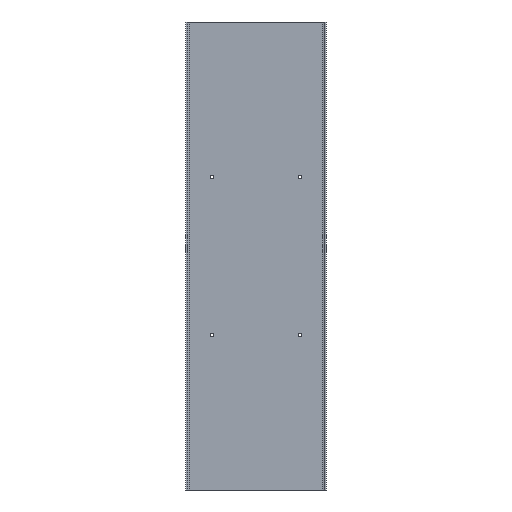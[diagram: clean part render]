
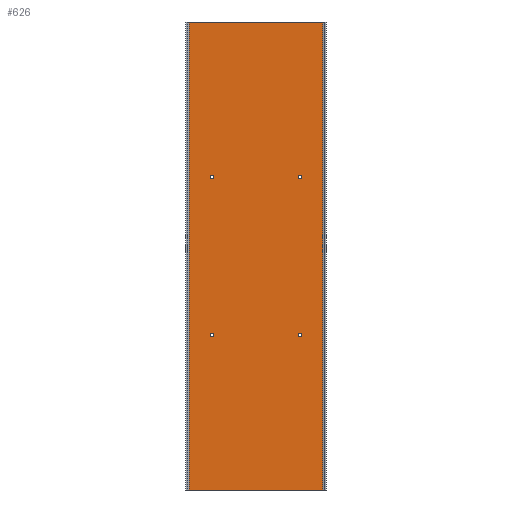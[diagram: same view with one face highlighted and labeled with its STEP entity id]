
A CAD part, front view. The second image highlights one B-rep face of the part: STEP entity #626.
In plain terms, the highlighted planar face has unit normal (0, -1, 0).
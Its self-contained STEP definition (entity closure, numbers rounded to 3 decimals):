
#10 = DIRECTION ( 'NONE',  ( 0., 0., -1. ) ) ;
#16 = AXIS2_PLACEMENT_3D ( 'NONE', #127, #576, #189 ) ;
#18 = ORIENTED_EDGE ( 'NONE', *, *, #464, .F. ) ;
#22 = CARTESIAN_POINT ( 'NONE',  ( 192.5, 120., 262. ) ) ;
#31 = VECTOR ( 'NONE', #580, 1000. ) ;
#35 = EDGE_CURVE ( 'NONE', #715, #40, #80, .T. ) ;
#39 = EDGE_CURVE ( 'NONE', #210, #804, #245, .T. ) ;
#40 = VERTEX_POINT ( 'NONE', #553 ) ;
#46 = CARTESIAN_POINT ( 'NONE',  ( 42.5, 120., 265. ) ) ;
#49 = CARTESIAN_POINT ( 'NONE',  ( 42.5, 120., 535. ) ) ;
#59 = LINE ( 'NONE', #309, #713 ) ;
#66 = DIRECTION ( 'NONE',  ( 0., 0., 1. ) ) ;
#73 = ORIENTED_EDGE ( 'NONE', *, *, #289, .T. ) ;
#80 = CIRCLE ( 'NONE', #299, 3. ) ;
#82 = EDGE_CURVE ( 'NONE', #40, #715, #206, .T. ) ;
#83 = CIRCLE ( 'NONE', #688, 3. ) ;
#95 = ORIENTED_EDGE ( 'NONE', *, *, #671, .T. ) ;
#111 = DIRECTION ( 'NONE',  ( 0., 0., -1. ) ) ;
#114 = DIRECTION ( 'NONE',  ( 0., 0., -1. ) ) ;
#127 = CARTESIAN_POINT ( 'NONE',  ( 42.5, 120., 535. ) ) ;
#134 = CARTESIAN_POINT ( 'NONE',  ( 0., 120., 800. ) ) ;
#140 = ORIENTED_EDGE ( 'NONE', *, *, #525, .F. ) ;
#146 = FACE_BOUND ( 'NONE', #329, .T. ) ;
#153 = EDGE_LOOP ( 'NONE', ( #367, #724 ) ) ;
#158 = EDGE_CURVE ( 'NONE', #731, #290, #199, .T. ) ;
#160 = CARTESIAN_POINT ( 'NONE',  ( 192.5, 120., 535. ) ) ;
#189 = DIRECTION ( 'NONE',  ( 0., 0., -1. ) ) ;
#191 = LINE ( 'NONE', #690, #517 ) ;
#193 = DIRECTION ( 'NONE',  ( 0., 0., -1. ) ) ;
#199 = LINE ( 'NONE', #623, #31 ) ;
#201 = ORIENTED_EDGE ( 'NONE', *, *, #689, .F. ) ;
#206 = CIRCLE ( 'NONE', #387, 3. ) ;
#210 = VERTEX_POINT ( 'NONE', #22 ) ;
#212 = CIRCLE ( 'NONE', #16, 3. ) ;
#231 = DIRECTION ( 'NONE',  ( 0., 0., -1. ) ) ;
#237 = CARTESIAN_POINT ( 'NONE',  ( 192.5, 120., 535. ) ) ;
#238 = DIRECTION ( 'NONE',  ( 0., -1., 0. ) ) ;
#244 = EDGE_LOOP ( 'NONE', ( #520, #73, #527, #95 ) ) ;
#245 = CIRCLE ( 'NONE', #341, 3. ) ;
#251 = CARTESIAN_POINT ( 'NONE',  ( 42.5, 120., 538. ) ) ;
#273 = EDGE_CURVE ( 'NONE', #804, #210, #83, .T. ) ;
#289 = EDGE_CURVE ( 'NONE', #731, #647, #59, .T. ) ;
#290 = VERTEX_POINT ( 'NONE', #571 ) ;
#298 = DIRECTION ( 'NONE',  ( 0., 0., -1. ) ) ;
#299 = AXIS2_PLACEMENT_3D ( 'NONE', #46, #491, #111 ) ;
#307 = DIRECTION ( 'NONE',  ( -1., 0., 0. ) ) ;
#309 = CARTESIAN_POINT ( 'NONE',  ( 232., 120., 800. ) ) ;
#312 = VECTOR ( 'NONE', #427, 1000. ) ;
#318 = CARTESIAN_POINT ( 'NONE',  ( 232., 120., 800. ) ) ;
#329 = EDGE_LOOP ( 'NONE', ( #18, #201 ) ) ;
#341 = AXIS2_PLACEMENT_3D ( 'NONE', #619, #238, #678 ) ;
#355 = ORIENTED_EDGE ( 'NONE', *, *, #82, .F. ) ;
#359 = CIRCLE ( 'NONE', #508, 3. ) ;
#367 = ORIENTED_EDGE ( 'NONE', *, *, #273, .F. ) ;
#377 = DIRECTION ( 'NONE',  ( 0., -1., 0. ) ) ;
#380 = CARTESIAN_POINT ( 'NONE',  ( 192.5, 120., 532. ) ) ;
#385 = AXIS2_PLACEMENT_3D ( 'NONE', #134, #579, #193 ) ;
#387 = AXIS2_PLACEMENT_3D ( 'NONE', #777, #405, #10 ) ;
#391 = LINE ( 'NONE', #799, #312 ) ;
#394 = EDGE_LOOP ( 'NONE', ( #695, #140 ) ) ;
#405 = DIRECTION ( 'NONE',  ( 0., -1., 0. ) ) ;
#427 = DIRECTION ( 'NONE',  ( 0., 0., -1. ) ) ;
#429 = AXIS2_PLACEMENT_3D ( 'NONE', #237, #677, #298 ) ;
#451 = PLANE ( 'NONE',  #385 ) ;
#453 = CIRCLE ( 'NONE', #518, 3. ) ;
#457 = VERTEX_POINT ( 'NONE', #793 ) ;
#464 = EDGE_CURVE ( 'NONE', #457, #521, #359, .T. ) ;
#465 = CARTESIAN_POINT ( 'NONE',  ( 192.5, 120., 268. ) ) ;
#471 = FACE_BOUND ( 'NONE', #153, .T. ) ;
#482 = VERTEX_POINT ( 'NONE', #670 ) ;
#490 = CARTESIAN_POINT ( 'NONE',  ( 3., 120., 800. ) ) ;
#491 = DIRECTION ( 'NONE',  ( 0., -1., 0. ) ) ;
#494 = CARTESIAN_POINT ( 'NONE',  ( 42.5, 120., 262. ) ) ;
#495 = DIRECTION ( 'NONE',  ( 0., -1., 0. ) ) ;
#505 = EDGE_CURVE ( 'NONE', #647, #684, #191, .T. ) ;
#508 = AXIS2_PLACEMENT_3D ( 'NONE', #160, #612, #231 ) ;
#510 = VERTEX_POINT ( 'NONE', #251 ) ;
#517 = VECTOR ( 'NONE', #307, 1000. ) ;
#518 = AXIS2_PLACEMENT_3D ( 'NONE', #49, #495, #114 ) ;
#520 = ORIENTED_EDGE ( 'NONE', *, *, #158, .F. ) ;
#521 = VERTEX_POINT ( 'NONE', #380 ) ;
#524 = EDGE_LOOP ( 'NONE', ( #355, #750 ) ) ;
#525 = EDGE_CURVE ( 'NONE', #482, #510, #212, .T. ) ;
#527 = ORIENTED_EDGE ( 'NONE', *, *, #505, .T. ) ;
#553 = CARTESIAN_POINT ( 'NONE',  ( 42.5, 120., 268. ) ) ;
#555 = CARTESIAN_POINT ( 'NONE',  ( 232., 120., 0. ) ) ;
#571 = CARTESIAN_POINT ( 'NONE',  ( 3., 120., 0. ) ) ;
#576 = DIRECTION ( 'NONE',  ( 0., -1., 0. ) ) ;
#579 = DIRECTION ( 'NONE',  ( 0., -1., 0. ) ) ;
#580 = DIRECTION ( 'NONE',  ( -1., 0., 0. ) ) ;
#612 = DIRECTION ( 'NONE',  ( 0., -1., 0. ) ) ;
#618 = FACE_OUTER_BOUND ( 'NONE', #244, .T. ) ;
#619 = CARTESIAN_POINT ( 'NONE',  ( 192.5, 120., 265. ) ) ;
#623 = CARTESIAN_POINT ( 'NONE',  ( 0., 120., 0. ) ) ;
#626 = ADVANCED_FACE ( 'NONE', ( #825, #146, #471, #782, #618 ), #451, .T. ) ;
#634 = CIRCLE ( 'NONE', #429, 3. ) ;
#647 = VERTEX_POINT ( 'NONE', #318 ) ;
#670 = CARTESIAN_POINT ( 'NONE',  ( 42.5, 120., 532. ) ) ;
#671 = EDGE_CURVE ( 'NONE', #684, #290, #391, .T. ) ;
#677 = DIRECTION ( 'NONE',  ( 0., -1., 0. ) ) ;
#678 = DIRECTION ( 'NONE',  ( 0., 0., -1. ) ) ;
#684 = VERTEX_POINT ( 'NONE', #490 ) ;
#688 = AXIS2_PLACEMENT_3D ( 'NONE', #759, #377, #819 ) ;
#689 = EDGE_CURVE ( 'NONE', #521, #457, #634, .T. ) ;
#690 = CARTESIAN_POINT ( 'NONE',  ( 0., 120., 800. ) ) ;
#695 = ORIENTED_EDGE ( 'NONE', *, *, #753, .F. ) ;
#713 = VECTOR ( 'NONE', #66, 1000. ) ;
#715 = VERTEX_POINT ( 'NONE', #494 ) ;
#724 = ORIENTED_EDGE ( 'NONE', *, *, #39, .F. ) ;
#731 = VERTEX_POINT ( 'NONE', #555 ) ;
#750 = ORIENTED_EDGE ( 'NONE', *, *, #35, .F. ) ;
#753 = EDGE_CURVE ( 'NONE', #510, #482, #453, .T. ) ;
#759 = CARTESIAN_POINT ( 'NONE',  ( 192.5, 120., 265. ) ) ;
#777 = CARTESIAN_POINT ( 'NONE',  ( 42.5, 120., 265. ) ) ;
#782 = FACE_BOUND ( 'NONE', #524, .T. ) ;
#793 = CARTESIAN_POINT ( 'NONE',  ( 192.5, 120., 538. ) ) ;
#799 = CARTESIAN_POINT ( 'NONE',  ( 3., 120., 0. ) ) ;
#804 = VERTEX_POINT ( 'NONE', #465 ) ;
#819 = DIRECTION ( 'NONE',  ( 0., 0., -1. ) ) ;
#825 = FACE_BOUND ( 'NONE', #394, .T. ) ;
